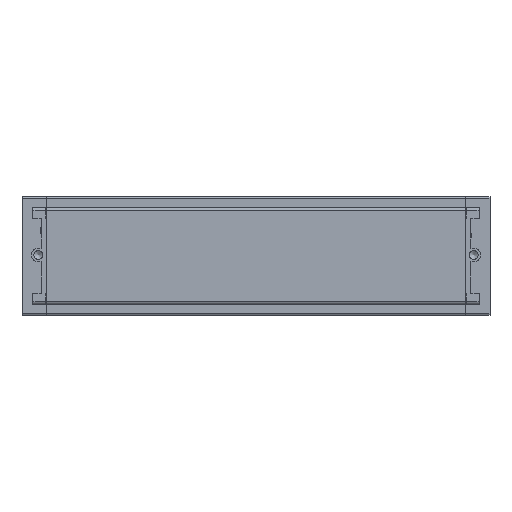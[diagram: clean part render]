
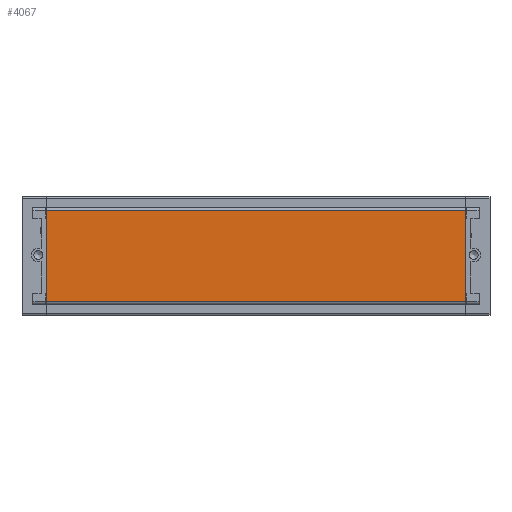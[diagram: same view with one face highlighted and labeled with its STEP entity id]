
A CAD part, front view. The second image highlights one B-rep face of the part: STEP entity #4067.
In plain terms, the highlighted planar face has unit normal (0, -1, 0).
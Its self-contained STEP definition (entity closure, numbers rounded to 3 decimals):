
#128=PLANE('',#4348);
#259=FACE_OUTER_BOUND('',#490,.T.);
#490=EDGE_LOOP('',(#2684,#2685,#2686,#2687));
#756=LINE('',#5987,#1156);
#757=LINE('',#5990,#1157);
#758=LINE('',#5992,#1158);
#759=LINE('',#5993,#1159);
#1156=VECTOR('',#4836,10.);
#1157=VECTOR('',#4839,10.);
#1158=VECTOR('',#4840,10.);
#1159=VECTOR('',#4841,10.);
#1686=VERTEX_POINT('',#5983);
#1687=VERTEX_POINT('',#5985);
#1688=VERTEX_POINT('',#5989);
#1689=VERTEX_POINT('',#5991);
#2076=EDGE_CURVE('',#1686,#1687,#756,.T.);
#2077=EDGE_CURVE('',#1688,#1686,#757,.T.);
#2078=EDGE_CURVE('',#1689,#1687,#758,.T.);
#2079=EDGE_CURVE('',#1688,#1689,#759,.T.);
#2684=ORIENTED_EDGE('',*,*,#2077,.T.);
#2685=ORIENTED_EDGE('',*,*,#2076,.T.);
#2686=ORIENTED_EDGE('',*,*,#2078,.F.);
#2687=ORIENTED_EDGE('',*,*,#2079,.F.);
#4067=ADVANCED_FACE('',(#259),#128,.T.);
#4348=AXIS2_PLACEMENT_3D('',#5988,#4837,#4838);
#4836=DIRECTION('',(1.,0.,0.));
#4837=DIRECTION('center_axis',(0.,-1.,0.));
#4838=DIRECTION('ref_axis',(0.,0.,-1.));
#4839=DIRECTION('',(0.,0.,-1.));
#4840=DIRECTION('',(0.,0.,-1.));
#4841=DIRECTION('',(1.,0.,0.));
#5983=CARTESIAN_POINT('',(0.,-25.597,-43.494));
#5985=CARTESIAN_POINT('',(154.,-25.597,-43.494));
#5987=CARTESIAN_POINT('',(0.,-25.597,-43.494));
#5988=CARTESIAN_POINT('Origin',(0.,-25.597,-10.094));
#5989=CARTESIAN_POINT('',(0.,-25.597,-10.094));
#5990=CARTESIAN_POINT('',(0.,-25.597,-10.094));
#5991=CARTESIAN_POINT('',(154.,-25.597,-10.094));
#5992=CARTESIAN_POINT('',(154.,-25.597,-10.094));
#5993=CARTESIAN_POINT('',(0.,-25.597,-10.094));
